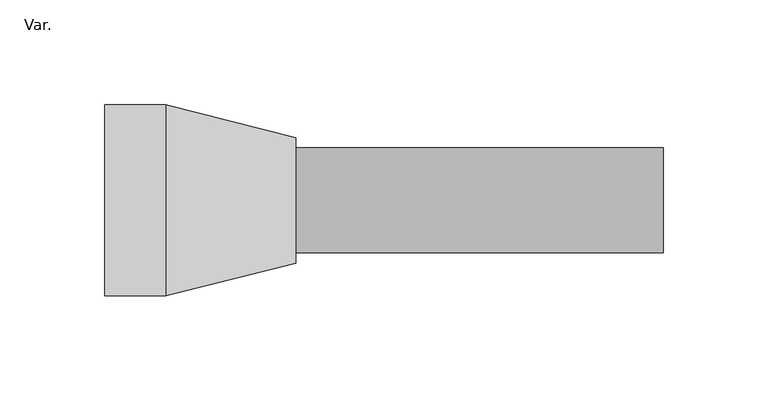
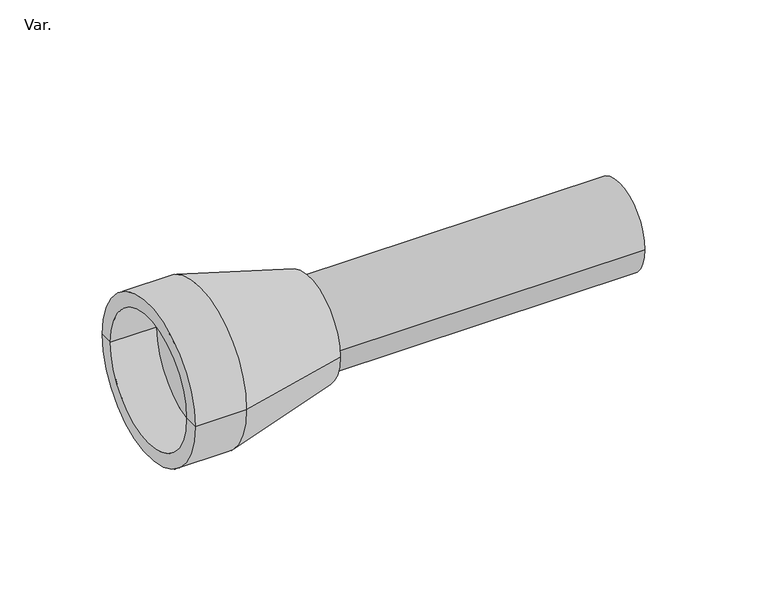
"""IFC4 building model written with IfcOpenShell, lengths in millimetres: pipe fitting geometry, AmancoWavin_ConexõesdeTubos_QSZNãoUsarFunilConector : Var.."""

from ifc_helpers import new_model, si_unit, frame, origin, place, context, project, spatial, polyline, circle_curve, source, transform, mapped, element, save
from ifc_brep_helpers import plane_surface, cylinder_surface, revolved_surface, advanced_brep


def var_6497f26d(model_context):
    return source(origin(), model_context, "Body", "AdvancedBrep", [
        advanced_brep(
        [(-26.0, 37.5, 0.0), (-26.0, -37.5, 0.0), (0.0, -37.5, 0.0), (0.0, 37.5, 0.0), (-26.0, 45.5, 0.0), (-26.0, -45.5, 0.0), (3.0, 45.5, 0.0), (3.0, -45.5, 0.0), (0.0, -25.0, 0.0), (0.0, 0.0, 0.0), (0.0, 25.0, 0.0), (240.0, -25.0, 0.0), (240.0, 25.0, 0.0), (65.0, 25.0, 0.0), (65.0, -25.0, 0.0), (65.0, 29.887218, 0.0), (65.0, -29.887218, 0.0)],
        [
            (0, 1, circle_curve(frame((-26.0, 0.0, 0.0), z_axis=(-1.0, 0.0, 0.0), x_axis=(0.0, -1.0, 0.0)), 37.5)),
            (1, 2),
            (2, 3, circle_curve(frame((0.0, 0.0, 0.0), z_axis=(1.0, 0.0, 0.0), x_axis=(0.0, -1.0, 0.0)), 37.5)),
            (3, 0),
            (1, 0, circle_curve(frame((-26.0, 0.0, 0.0), z_axis=(-1.0, 0.0, 0.0), x_axis=(0.0, -1.0, 0.0)), 37.5)),
            (3, 2, circle_curve(frame((0.0, 0.0, 0.0), z_axis=(1.0, 0.0, 0.0), x_axis=(0.0, -1.0, 0.0)), 37.5)),
            (0, 4),
            (4, 5, circle_curve(frame((-26.0, 0.0, 0.0), z_axis=(-1.0, 0.0, 0.0), x_axis=(0.0, -1.0, 0.0)), 45.5)),
            (5, 1),
            (5, 4, circle_curve(frame((-26.0, 0.0, 0.0), z_axis=(-1.0, 0.0, 0.0), x_axis=(0.0, -1.0, 0.0)), 45.5)),
            (4, 6),
            (6, 7, circle_curve(frame((3.0, 0.0, 0.0), z_axis=(-1.0, 0.0, 0.0), x_axis=(0.0, -1.0, 0.0)), 45.5)),
            (7, 5),
            (7, 6, circle_curve(frame((3.0, 0.0, 0.0), z_axis=(-1.0, 0.0, 0.0), x_axis=(0.0, -1.0, 0.0)), 45.5)),
            (2, 8),
            (8, 9),
            (9, 10),
            (10, 3),
            (11, 12, circle_curve(frame((240.0, 0.0, 0.0), z_axis=(1.0, 0.0, 0.0), x_axis=(0.0, 1.0, 0.0)), 25.0)),
            (12, 11, circle_curve(frame((240.0, 0.0, 0.0), z_axis=(1.0, 0.0, 0.0), x_axis=(0.0, 1.0, 0.0)), 25.0)),
            (12, 13),
            (13, 14, circle_curve(frame((65.0, 0.0, 0.0), z_axis=(1.0, 0.0, 0.0), x_axis=(0.0, 1.0, 0.0)), 25.0)),
            (14, 11),
            (14, 13, circle_curve(frame((65.0, 0.0, 0.0), z_axis=(1.0, 0.0, 0.0), x_axis=(0.0, 1.0, 0.0)), 25.0)),
            (6, 15),
            (15, 16, circle_curve(frame((65.0, 0.0, 0.0), z_axis=(-1.0, 0.0, 0.0), x_axis=(0.0, -1.0, 0.0)), 29.887218)),
            (16, 7),
            (16, 15, circle_curve(frame((65.0, 0.0, 0.0), z_axis=(-1.0, 0.0, 0.0), x_axis=(0.0, -1.0, 0.0)), 29.887218)),
            (15, 13),
            (14, 16),
        ],
        [
            revolved_surface(polyline([(0.0, -37.5, 0.0), (-26.0, -37.5, 0.0)]), (0.0, 0.0, 0.0), (1.0, 0.0, 0.0)),
            plane_surface(frame((-26.0, 0.0, 0.0), z_axis=(-1.0, 0.0, 0.0), x_axis=(0.0, -1.0, 0.0))),
            cylinder_surface(frame((0.0, 0.0, 0.0), z_axis=(1.0, 0.0, 0.0), x_axis=(0.0, -1.0, 0.0)), 45.5),
            plane_surface(frame((0.0, 0.0, 0.0), z_axis=(-1.0, 0.0, 0.0), x_axis=(0.0, -1.0, 0.0))),
            plane_surface(frame((240.0, 0.0, 0.0), z_axis=(1.0, 0.0, 0.0), x_axis=(0.0, 0.0, 1.0))),
            cylinder_surface(frame((0.0, 0.0, 0.0), z_axis=(-1.0, 0.0, 0.0), x_axis=(0.0, 1.0, 0.0)), 25.0),
            revolved_surface(polyline([(3.0, -45.5, 0.0), (65.0, -29.887218, 0.0)]), (0.0, 0.0, 0.0), (1.0, 0.0, 0.0)),
            plane_surface(frame((65.0, 0.0, 0.0), z_axis=(1.0, 0.0, 0.0), x_axis=(0.0, -1.0, 0.0))),
        ],
        [
            (0, [[1, 2, 3, 4]]),
            (0, [[-2, 5, -4, 6]]),
            (1, [[-1, 7, 8, 9]]),
            (1, [[-5, -9, 10, -7]]),
            (2, [[-8, 11, 12, 13]]),
            (2, [[-10, -13, 14, -11]]),
            (3, [[-3, 15, 16, 17, 18]]),
            (3, [[-6, -18, -17, -16, -15]]),
            (4, [[19, 20]]),
            (5, [[-20, 21, 22, 23]]),
            (5, [[-19, -23, 24, -21]]),
            (6, [[-12, 25, 26, 27]]),
            (6, [[-14, -27, 28, -25]]),
            (7, [[-26, 29, -24, 30]]),
            (7, [[-28, -30, -22, -29]]),
        ],
    ),
    ])


if __name__ == "__main__":
    model = new_model("IFC4")
    model_context = context("Model", 3, world=origin())
    ifc_project = project(units=[si_unit("LENGTHUNIT", "METRE", prefix="MILLI")], contexts=[model_context])
    site = spatial("IfcSite", under=ifc_project)
    building = spatial("IfcBuilding", under=site)
    placement = place(None, origin())
    var_shape = var_6497f26d(model_context)
    element("IfcPipeFitting", 1, ObjectType="AmancoWavin_ConexõesdeTubos_QSZNãoUsarFunilConector : Var.", at=placement, inside=building, context=model_context, shape_type="MappedRepresentation", body=[
        mapped(var_shape, transform((0.0, 0.0, 0.0), x_axis=(1.0, 0.0, 0.0), y_axis=(0.0, 1.0, 0.0), z_axis=(0.0, 0.0, 1.0))),
    ])
    save(model, "model.ifc")
